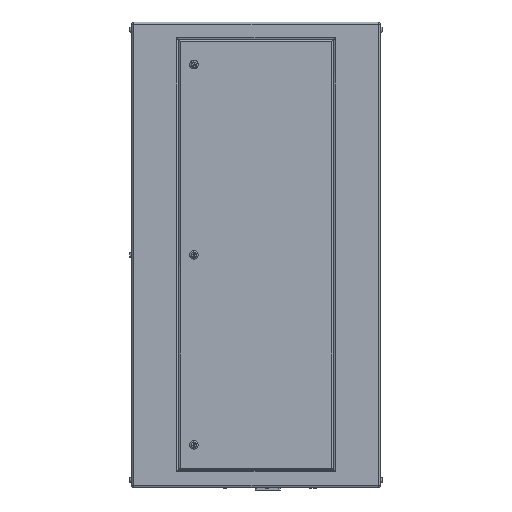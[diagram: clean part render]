
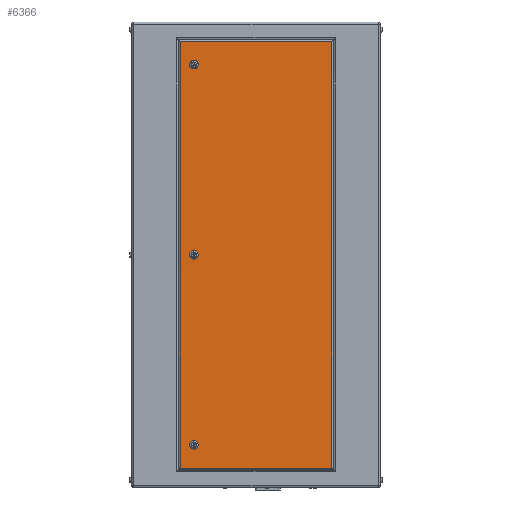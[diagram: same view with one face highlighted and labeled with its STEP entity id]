
A CAD part, left-side view. The second image highlights one B-rep face of the part: STEP entity #6366.
In plain terms, the highlighted planar face has unit normal (-1, 0, 0).
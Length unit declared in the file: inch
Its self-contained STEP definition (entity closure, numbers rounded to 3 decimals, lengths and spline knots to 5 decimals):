
#26 = LINE ( 'NONE', #6346, #25012 ) ;
#789 = DIRECTION ( 'NONE',  ( 0., 0., -1. ) ) ;
#832 = DIRECTION ( 'NONE',  ( 1., 0., 0. ) ) ;
#1587 = EDGE_LOOP ( 'NONE', ( #29178, #20031 ) ) ;
#2005 = DIRECTION ( 'NONE',  ( 0., 0., 1. ) ) ;
#2153 = DIRECTION ( 'NONE',  ( 1., 0., 0. ) ) ;
#2462 = FACE_BOUND ( 'NONE', #36354, .T. ) ;
#2637 = FACE_OUTER_BOUND ( 'NONE', #9156, .T. ) ;
#3040 = CARTESIAN_POINT ( 'NONE',  ( -18.5, 16., -30. ) ) ;
#3277 = CARTESIAN_POINT ( 'NONE',  ( -18.5, 8., 23.95 ) ) ;
#3468 = AXIS2_PLACEMENT_3D ( 'NONE', #27840, #832, #16015 ) ;
#3621 = AXIS2_PLACEMENT_3D ( 'NONE', #31667, #28523, #789 ) ;
#4252 = CIRCLE ( 'NONE', #26270, 0.55 ) ;
#4685 = VERTEX_POINT ( 'NONE', #22444 ) ;
#5686 = EDGE_CURVE ( 'NONE', #9410, #16078, #4252, .T. ) ;
#5750 = DIRECTION ( 'NONE',  ( 1., 0., 0. ) ) ;
#6103 = CIRCLE ( 'NONE', #3621, 0.55 ) ;
#6346 = CARTESIAN_POINT ( 'NONE',  ( -18.5, 16., 27.49 ) ) ;
#6366 = ADVANCED_FACE ( 'NONE', ( #12307, #2462, #32750, #2637 ), #9135, .F. ) ;
#6788 = CARTESIAN_POINT ( 'NONE',  ( -18.5, 8., 0. ) ) ;
#7149 = DIRECTION ( 'NONE',  ( 0., 0., -1. ) ) ;
#7473 = ORIENTED_EDGE ( 'NONE', *, *, #12067, .T. ) ;
#8476 = VECTOR ( 'NONE', #2005, 39.37008 ) ;
#8653 = LINE ( 'NONE', #35641, #36933 ) ;
#9135 = PLANE ( 'NONE',  #32946 ) ;
#9156 = EDGE_LOOP ( 'NONE', ( #36615, #9340, #36551, #20289 ) ) ;
#9340 = ORIENTED_EDGE ( 'NONE', *, *, #22421, .T. ) ;
#9410 = VERTEX_POINT ( 'NONE', #3277 ) ;
#9556 = DIRECTION ( 'NONE',  ( 1., 0., 0. ) ) ;
#10923 = AXIS2_PLACEMENT_3D ( 'NONE', #35987, #27138, #26952 ) ;
#12067 = EDGE_CURVE ( 'NONE', #27695, #4685, #12145, .T. ) ;
#12145 = CIRCLE ( 'NONE', #36681, 0.55 ) ;
#12307 = FACE_BOUND ( 'NONE', #24129, .T. ) ;
#12897 = ORIENTED_EDGE ( 'NONE', *, *, #34963, .T. ) ;
#14029 = CARTESIAN_POINT ( 'NONE',  ( -18.5, 9.74, -27.49 ) ) ;
#15114 = VERTEX_POINT ( 'NONE', #19526 ) ;
#15149 = EDGE_CURVE ( 'NONE', #24736, #32167, #6103, .T. ) ;
#15373 = CIRCLE ( 'NONE', #10923, 0.55 ) ;
#15550 = VECTOR ( 'NONE', #24235, 39.37008 ) ;
#16015 = DIRECTION ( 'NONE',  ( 0., 0., -1. ) ) ;
#16078 = VERTEX_POINT ( 'NONE', #17602 ) ;
#17602 = CARTESIAN_POINT ( 'NONE',  ( -18.5, 8., 25.05 ) ) ;
#18010 = EDGE_CURVE ( 'NONE', #32167, #24736, #15373, .T. ) ;
#19526 = CARTESIAN_POINT ( 'NONE',  ( -18.5, 9.74, 27.49 ) ) ;
#19935 = CARTESIAN_POINT ( 'NONE',  ( -18.5, 8., 24.5 ) ) ;
#20031 = ORIENTED_EDGE ( 'NONE', *, *, #22274, .T. ) ;
#20289 = ORIENTED_EDGE ( 'NONE', *, *, #33616, .T. ) ;
#20618 = CIRCLE ( 'NONE', #23779, 0.55 ) ;
#20687 = DIRECTION ( 'NONE',  ( 0., 0., -1. ) ) ;
#21404 = CARTESIAN_POINT ( 'NONE',  ( -18.5, -9.74, 27.49 ) ) ;
#22274 = EDGE_CURVE ( 'NONE', #16078, #9410, #24868, .T. ) ;
#22398 = VERTEX_POINT ( 'NONE', #14029 ) ;
#22421 = EDGE_CURVE ( 'NONE', #34487, #28467, #31934, .T. ) ;
#22444 = CARTESIAN_POINT ( 'NONE',  ( -18.5, 8., 0.55 ) ) ;
#23779 = AXIS2_PLACEMENT_3D ( 'NONE', #6788, #9556, #7149 ) ;
#23908 = DIRECTION ( 'NONE',  ( 0., 0., -1. ) ) ;
#24090 = CARTESIAN_POINT ( 'NONE',  ( -18.5, -9.74, -27.49 ) ) ;
#24129 = EDGE_LOOP ( 'NONE', ( #36841, #27375 ) ) ;
#24235 = DIRECTION ( 'NONE',  ( 0., -1., 0. ) ) ;
#24736 = VERTEX_POINT ( 'NONE', #28401 ) ;
#24868 = CIRCLE ( 'NONE', #3468, 0.55 ) ;
#25012 = VECTOR ( 'NONE', #36682, 39.37008 ) ;
#25020 = CARTESIAN_POINT ( 'NONE',  ( -18.5, 8., -0.55 ) ) ;
#26270 = AXIS2_PLACEMENT_3D ( 'NONE', #19935, #2153, #35068 ) ;
#26890 = DIRECTION ( 'NONE',  ( 0., 0., -1. ) ) ;
#26952 = DIRECTION ( 'NONE',  ( 0., 0., -1. ) ) ;
#27138 = DIRECTION ( 'NONE',  ( 1., 0., 0. ) ) ;
#27263 = DIRECTION ( 'NONE',  ( 1., 0., 0. ) ) ;
#27375 = ORIENTED_EDGE ( 'NONE', *, *, #15149, .T. ) ;
#27695 = VERTEX_POINT ( 'NONE', #25020 ) ;
#27840 = CARTESIAN_POINT ( 'NONE',  ( -18.5, 8., 24.5 ) ) ;
#28401 = CARTESIAN_POINT ( 'NONE',  ( -18.5, 8., -23.95 ) ) ;
#28467 = VERTEX_POINT ( 'NONE', #21404 ) ;
#28523 = DIRECTION ( 'NONE',  ( 1., 0., 0. ) ) ;
#28975 = CARTESIAN_POINT ( 'NONE',  ( -18.5, -9.74, -30. ) ) ;
#29178 = ORIENTED_EDGE ( 'NONE', *, *, #5686, .T. ) ;
#29724 = CARTESIAN_POINT ( 'NONE',  ( -18.5, 16., -27.49 ) ) ;
#31667 = CARTESIAN_POINT ( 'NONE',  ( -18.5, 8., -24.5 ) ) ;
#31934 = LINE ( 'NONE', #28975, #8476 ) ;
#32167 = VERTEX_POINT ( 'NONE', #34317 ) ;
#32700 = CARTESIAN_POINT ( 'NONE',  ( -18.5, 8., 0. ) ) ;
#32750 = FACE_BOUND ( 'NONE', #1587, .T. ) ;
#32946 = AXIS2_PLACEMENT_3D ( 'NONE', #3040, #27263, #26890 ) ;
#33515 = EDGE_CURVE ( 'NONE', #22398, #34487, #36225, .T. ) ;
#33616 = EDGE_CURVE ( 'NONE', #15114, #22398, #8653, .T. ) ;
#34317 = CARTESIAN_POINT ( 'NONE',  ( -18.5, 8., -25.05 ) ) ;
#34451 = EDGE_CURVE ( 'NONE', #28467, #15114, #26, .T. ) ;
#34487 = VERTEX_POINT ( 'NONE', #24090 ) ;
#34963 = EDGE_CURVE ( 'NONE', #4685, #27695, #20618, .T. ) ;
#35068 = DIRECTION ( 'NONE',  ( 0., 0., -1. ) ) ;
#35641 = CARTESIAN_POINT ( 'NONE',  ( -18.5, 9.74, -30. ) ) ;
#35987 = CARTESIAN_POINT ( 'NONE',  ( -18.5, 8., -24.5 ) ) ;
#36225 = LINE ( 'NONE', #29724, #15550 ) ;
#36354 = EDGE_LOOP ( 'NONE', ( #7473, #12897 ) ) ;
#36551 = ORIENTED_EDGE ( 'NONE', *, *, #34451, .T. ) ;
#36615 = ORIENTED_EDGE ( 'NONE', *, *, #33515, .T. ) ;
#36681 = AXIS2_PLACEMENT_3D ( 'NONE', #32700, #5750, #23908 ) ;
#36682 = DIRECTION ( 'NONE',  ( 0., 1., 0. ) ) ;
#36841 = ORIENTED_EDGE ( 'NONE', *, *, #18010, .T. ) ;
#36933 = VECTOR ( 'NONE', #20687, 39.37008 ) ;
